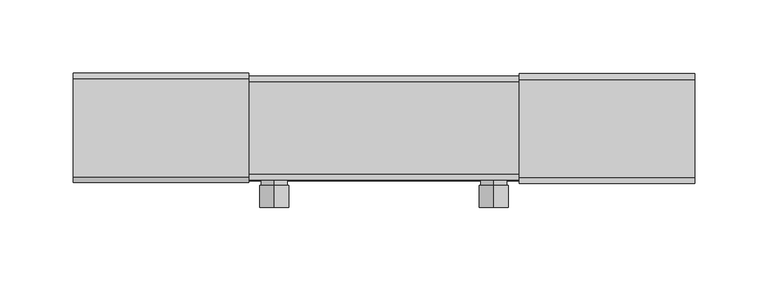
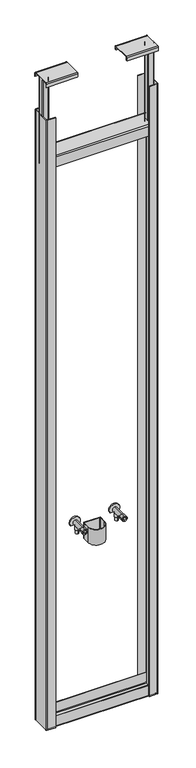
"""IFC4 building model written with IfcOpenShell, lengths in millimetres: flow terminal geometry, NLRS_74_PF_TLB_HU-ASM-WT_Geberit : HU-ASM-WT."""

from ifc_helpers import new_model, si_unit, point, frame, frame_2d, origin, place, context, project, spatial, polyline, circle_curve, trimmed, segment, composite_curve, outline, extrude, source, transform, mapped, element, save
from ifc_brep_helpers import plane_surface, cylinder_surface, revolved_surface, advanced_brep


def flow_terminal_dee08af2(model_context):
    return source(origin(), model_context, "Body", "SolidModel", [
        extrude(outline(composite_curve([segment(trimmed(circle_curve(frame_2d((560.0, 894.5814924)), 20.0), [point((551.7647059, 912.8072964))], [point((551.7647059, 876.3556885))], False, "CARTESIAN"), True, "CONTINUOUS"), segment(trimmed(circle_curve(frame_2d((553.0, 879.0895591)), 3.0), [point((551.7647059, 876.3556885))], [point((550.0, 879.0895591))], False, "CARTESIAN"), True, "CONTINUOUS"), segment(polyline([(550.0, 879.0895591), (550.0, 910.0734258)]), True, "CONTINUOUS"), segment(trimmed(circle_curve(frame_2d((553.0, 910.0734258)), 3.0), [point((550.0, 910.0734258))], [point((551.7647059, 912.8072964))], False, "CARTESIAN"), True, "CONTINUOUS")], self_intersect=False)), frame((0.0, 48.6893191, 0.0), z_axis=(0.0, 1.0, 0.0), x_axis=(0.0, 0.0, 1.0)), (0.0, 0.0, 1.0), 5.0),
        advanced_brep(
        [(894.5814924, 35.6893191, 525.0), (894.5814924, 41.6893191, 525.0), (894.5814924, 29.6893191, 525.0), (894.5814924, 41.6893191, 540.0), (894.5814924, 29.6893191, 540.0), (894.5814924, 43.6893191, 540.0), (894.5814924, 27.6893191, 540.0), (894.5814924, 43.6893191, 560.0), (894.5814924, 27.6893191, 560.0), (894.5814924, 35.6893191, 560.0)],
        [
            (0, 1),
            (1, 2, circle_curve(frame((894.5814924, 35.6893191, 525.0), z_axis=(0.0, 0.0, -1.0), x_axis=(0.0, 1.0, 0.0)), 6.0)),
            (2, 0),
            (2, 1, circle_curve(frame((894.5814924, 35.6893191, 525.0), z_axis=(0.0, 0.0, -1.0), x_axis=(0.0, 1.0, 0.0)), 6.0)),
            (1, 3),
            (3, 4, circle_curve(frame((894.5814924, 35.6893191, 540.0), z_axis=(0.0, 0.0, -1.0), x_axis=(0.0, 1.0, 0.0)), 6.0)),
            (4, 2),
            (4, 3, circle_curve(frame((894.5814924, 35.6893191, 540.0), z_axis=(0.0, 0.0, -1.0), x_axis=(0.0, 1.0, 0.0)), 6.0)),
            (3, 5),
            (5, 6, circle_curve(frame((894.5814924, 35.6893191, 540.0), z_axis=(0.0, 0.0, -1.0), x_axis=(0.0, 1.0, 0.0)), 8.0)),
            (6, 4),
            (6, 5, circle_curve(frame((894.5814924, 35.6893191, 540.0), z_axis=(0.0, 0.0, -1.0), x_axis=(0.0, 1.0, 0.0)), 8.0)),
            (5, 7),
            (7, 8, circle_curve(frame((894.5814924, 35.6893191, 560.0), z_axis=(0.0, 0.0, -1.0), x_axis=(0.0, 1.0, 0.0)), 8.0)),
            (8, 6),
            (8, 7, circle_curve(frame((894.5814924, 35.6893191, 560.0), z_axis=(0.0, 0.0, -1.0), x_axis=(0.0, 1.0, 0.0)), 8.0)),
            (7, 9),
            (9, 8),
        ],
        [
            plane_surface(frame((894.5814924, 35.6893191, 525.0), z_axis=(0.0, 0.0, -1.0), x_axis=(0.0, 1.0, 0.0))),
            cylinder_surface(frame((894.5814924, 35.6893191, 564.6416054), z_axis=(0.0, 0.0, -1.0), x_axis=(0.0, 1.0, 0.0)), 6.0),
            plane_surface(frame((894.5814924, 35.6893191, 540.0), z_axis=(0.0, 0.0, -1.0), x_axis=(0.0, 1.0, 0.0))),
            cylinder_surface(frame((894.5814924, 35.6893191, 564.6416054), z_axis=(0.0, 0.0, -1.0), x_axis=(0.0, 1.0, 0.0)), 8.0),
            plane_surface(frame((894.5814924, 35.6893191, 560.0), z_axis=(0.0, 0.0, 1.0), x_axis=(0.0, 1.0, 0.0))),
        ],
        [
            (0, [[1, 2, 3]]),
            (0, [[-3, 4, -1]]),
            (1, [[-2, 5, 6, 7]]),
            (1, [[-4, -7, 8, -5]]),
            (2, [[-6, 9, 10, 11]]),
            (2, [[-8, -11, 12, -9]]),
            (3, [[-10, 13, 14, 15]]),
            (3, [[-12, -15, 16, -13]]),
            (4, [[-14, 17, 18]]),
            (4, [[-16, -18, -17]]),
        ],
    ),
        advanced_brep(
        [(894.5814924, -1.3106809, 551.0), (894.5814924, -1.3106809, 569.0), (894.5814924, -1.3106809, 570.0), (894.5814924, -1.3106809, 550.0), (894.5814924, -16.3106809, 570.0), (894.5814924, -16.3106809, 550.0), (894.5814924, -16.3106809, 566.0), (894.5814924, -16.3106809, 554.0), (894.5814924, 13.6893191, 566.0), (894.5814924, 13.6893191, 554.0), (894.5814924, 13.6893191, 560.0), (894.5814924, 48.6893191, 560.0), (894.5814924, 48.6893191, 569.0), (894.5814924, 48.6893191, 551.0)],
        [
            (0, 1, circle_curve(frame((894.5814924, -1.3106809, 560.0), z_axis=(0.0, -1.0, 0.0), x_axis=(0.0, 0.0, 1.0)), 9.0)),
            (1, 2),
            (2, 3, circle_curve(frame((894.5814924, -1.3106809, 560.0), z_axis=(0.0, 1.0, 0.0), x_axis=(0.0, 0.0, 1.0)), 10.0)),
            (3, 0),
            (1, 0, circle_curve(frame((894.5814924, -1.3106809, 560.0), z_axis=(0.0, -1.0, 0.0), x_axis=(0.0, 0.0, 1.0)), 9.0)),
            (3, 2, circle_curve(frame((894.5814924, -1.3106809, 560.0), z_axis=(0.0, 1.0, 0.0), x_axis=(0.0, 0.0, 1.0)), 10.0)),
            (2, 4),
            (4, 5, circle_curve(frame((894.5814924, -16.3106809, 560.0), z_axis=(0.0, 1.0, 0.0), x_axis=(0.0, 0.0, 1.0)), 10.0)),
            (5, 3),
            (5, 4, circle_curve(frame((894.5814924, -16.3106809, 560.0), z_axis=(0.0, 1.0, 0.0), x_axis=(0.0, 0.0, 1.0)), 10.0)),
            (4, 6),
            (6, 7, circle_curve(frame((894.5814924, -16.3106809, 560.0), z_axis=(0.0, 1.0, 0.0), x_axis=(0.0, 0.0, 1.0)), 6.0)),
            (7, 5),
            (7, 6, circle_curve(frame((894.5814924, -16.3106809, 560.0), z_axis=(0.0, 1.0, 0.0), x_axis=(0.0, 0.0, 1.0)), 6.0)),
            (6, 8),
            (8, 9, circle_curve(frame((894.5814924, 13.6893191, 560.0), z_axis=(0.0, 1.0, 0.0), x_axis=(0.0, 0.0, 1.0)), 6.0)),
            (9, 7),
            (9, 8, circle_curve(frame((894.5814924, 13.6893191, 560.0), z_axis=(0.0, 1.0, 0.0), x_axis=(0.0, 0.0, 1.0)), 6.0)),
            (8, 10),
            (10, 9),
            (11, 12),
            (12, 13, circle_curve(frame((894.5814924, 48.6893191, 560.0), z_axis=(0.0, 1.0, 0.0), x_axis=(0.0, 0.0, 1.0)), 9.0)),
            (13, 11),
            (13, 12, circle_curve(frame((894.5814924, 48.6893191, 560.0), z_axis=(0.0, 1.0, 0.0), x_axis=(0.0, 0.0, 1.0)), 9.0)),
            (12, 1),
            (0, 13),
        ],
        [
            plane_surface(frame((894.5814924, -1.3106809, 560.0), z_axis=(0.0, 1.0, 0.0), x_axis=(0.0, 0.0, 1.0))),
            cylinder_surface(frame((894.5814924, 1496.110215, 560.0), z_axis=(0.0, 1.0, 0.0), x_axis=(0.0, 0.0, 1.0)), 10.0),
            plane_surface(frame((894.5814924, -16.3106809, 560.0), z_axis=(0.0, -1.0, 0.0), x_axis=(0.0, 0.0, 1.0))),
            revolved_surface(polyline([(894.5814924, 13.68931909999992, 566.0), (894.5814924, -16.31068090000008, 566.0)]), (894.5814924, 1496.110215, 560.0), (0.0, 1.0, 0.0)),
            plane_surface(frame((894.5814924, 13.6893191, 560.0), z_axis=(0.0, -1.0, 0.0), x_axis=(0.0, 0.0, 1.0))),
            plane_surface(frame((894.5814924, 48.6893191, 560.0), z_axis=(0.0, 1.0, 0.0), x_axis=(0.0, 0.0, 1.0))),
            cylinder_surface(frame((894.5814924, 1496.110215, 560.0), z_axis=(0.0, 1.0, 0.0), x_axis=(0.0, 0.0, 1.0)), 9.0),
        ],
        [
            (0, [[1, 2, 3, 4]]),
            (0, [[5, -4, 6, -2]]),
            (1, [[-3, 7, 8, 9]]),
            (1, [[-6, -9, 10, -7]]),
            (2, [[-8, 11, 12, 13]]),
            (2, [[-10, -13, 14, -11]]),
            (3, [[-12, 15, 16, 17]]),
            (3, [[-14, -17, 18, -15]]),
            (4, [[-16, 19, 20]]),
            (4, [[-18, -20, -19]]),
            (5, [[21, 22, 23]]),
            (5, [[-23, 24, -21]]),
            (6, [[-22, 25, -1, 26]]),
            (6, [[-24, -26, -5, -25]]),
        ],
    ),
        extrude(outline(composite_curve([segment(trimmed(circle_curve(frame_2d((560.0, 744.5814924)), 20.0), [point((551.7647059, 762.8072964))], [point((551.7647059, 726.3556885))], False, "CARTESIAN"), True, "CONTINUOUS"), segment(trimmed(circle_curve(frame_2d((553.0, 729.0895591)), 3.0), [point((551.7647059, 726.3556885))], [point((550.0, 729.0895591))], False, "CARTESIAN"), True, "CONTINUOUS"), segment(polyline([(550.0, 729.0895591), (550.0, 760.0734258)]), True, "CONTINUOUS"), segment(trimmed(circle_curve(frame_2d((553.0, 760.0734258)), 3.0), [point((550.0, 760.0734258))], [point((551.7647059, 762.8072964))], False, "CARTESIAN"), True, "CONTINUOUS")], self_intersect=False)), frame((0.0, 48.6893191, 0.0), z_axis=(0.0, 1.0, 0.0), x_axis=(0.0, 0.0, 1.0)), (0.0, 0.0, 1.0), 5.0),
        advanced_brep(
        [(744.5814924, 35.6893191, 525.0), (744.5814924, 41.6893191, 525.0), (744.5814924, 29.6893191, 525.0), (744.5814924, 41.6893191, 540.0), (744.5814924, 29.6893191, 540.0), (744.5814924, 43.6893191, 540.0), (744.5814924, 27.6893191, 540.0), (744.5814924, 43.6893191, 560.0), (744.5814924, 27.6893191, 560.0), (744.5814924, 35.6893191, 560.0)],
        [
            (0, 1),
            (1, 2, circle_curve(frame((744.5814924, 35.6893191, 525.0), z_axis=(0.0, 0.0, -1.0), x_axis=(0.0, 1.0, 0.0)), 6.0)),
            (2, 0),
            (2, 1, circle_curve(frame((744.5814924, 35.6893191, 525.0), z_axis=(0.0, 0.0, -1.0), x_axis=(0.0, 1.0, 0.0)), 6.0)),
            (1, 3),
            (3, 4, circle_curve(frame((744.5814924, 35.6893191, 540.0), z_axis=(0.0, 0.0, -1.0), x_axis=(0.0, 1.0, 0.0)), 6.0)),
            (4, 2),
            (4, 3, circle_curve(frame((744.5814924, 35.6893191, 540.0), z_axis=(0.0, 0.0, -1.0), x_axis=(0.0, 1.0, 0.0)), 6.0)),
            (3, 5),
            (5, 6, circle_curve(frame((744.5814924, 35.6893191, 540.0), z_axis=(0.0, 0.0, -1.0), x_axis=(0.0, 1.0, 0.0)), 8.0)),
            (6, 4),
            (6, 5, circle_curve(frame((744.5814924, 35.6893191, 540.0), z_axis=(0.0, 0.0, -1.0), x_axis=(0.0, 1.0, 0.0)), 8.0)),
            (5, 7),
            (7, 8, circle_curve(frame((744.5814924, 35.6893191, 560.0), z_axis=(0.0, 0.0, -1.0), x_axis=(0.0, 1.0, 0.0)), 8.0)),
            (8, 6),
            (8, 7, circle_curve(frame((744.5814924, 35.6893191, 560.0), z_axis=(0.0, 0.0, -1.0), x_axis=(0.0, 1.0, 0.0)), 8.0)),
            (7, 9),
            (9, 8),
        ],
        [
            plane_surface(frame((744.5814924, 35.6893191, 525.0), z_axis=(0.0, 0.0, -1.0), x_axis=(0.0, 1.0, 0.0))),
            cylinder_surface(frame((744.5814924, 35.6893191, 564.6416054), z_axis=(0.0, 0.0, -1.0), x_axis=(0.0, 1.0, 0.0)), 6.0),
            plane_surface(frame((744.5814924, 35.6893191, 540.0), z_axis=(0.0, 0.0, -1.0), x_axis=(0.0, 1.0, 0.0))),
            cylinder_surface(frame((744.5814924, 35.6893191, 564.6416054), z_axis=(0.0, 0.0, -1.0), x_axis=(0.0, 1.0, 0.0)), 8.0),
            plane_surface(frame((744.5814924, 35.6893191, 560.0), z_axis=(0.0, 0.0, 1.0), x_axis=(0.0, 1.0, 0.0))),
        ],
        [
            (0, [[1, 2, 3]]),
            (0, [[-3, 4, -1]]),
            (1, [[-2, 5, 6, 7]]),
            (1, [[-4, -7, 8, -5]]),
            (2, [[-6, 9, 10, 11]]),
            (2, [[-8, -11, 12, -9]]),
            (3, [[-10, 13, 14, 15]]),
            (3, [[-12, -15, 16, -13]]),
            (4, [[-14, 17, 18]]),
            (4, [[-16, -18, -17]]),
        ],
    ),
        advanced_brep(
        [(744.5814924, -1.3106809, 551.0), (744.5814924, -1.3106809, 569.0), (744.5814924, -1.3106809, 570.0), (744.5814924, -1.3106809, 550.0), (744.5814924, -16.3106809, 570.0), (744.5814924, -16.3106809, 550.0), (744.5814924, -16.3106809, 566.0), (744.5814924, -16.3106809, 554.0), (744.5814924, 13.6893191, 566.0), (744.5814924, 13.6893191, 554.0), (744.5814924, 13.6893191, 560.0), (744.5814924, 48.6893191, 560.0), (744.5814924, 48.6893191, 569.0), (744.5814924, 48.6893191, 551.0)],
        [
            (0, 1, circle_curve(frame((744.5814924, -1.3106809, 560.0), z_axis=(0.0, -1.0, 0.0), x_axis=(0.0, 0.0, 1.0)), 9.0)),
            (1, 2),
            (2, 3, circle_curve(frame((744.5814924, -1.3106809, 560.0), z_axis=(0.0, 1.0, 0.0), x_axis=(0.0, 0.0, 1.0)), 10.0)),
            (3, 0),
            (1, 0, circle_curve(frame((744.5814924, -1.3106809, 560.0), z_axis=(0.0, -1.0, 0.0), x_axis=(0.0, 0.0, 1.0)), 9.0)),
            (3, 2, circle_curve(frame((744.5814924, -1.3106809, 560.0), z_axis=(0.0, 1.0, 0.0), x_axis=(0.0, 0.0, 1.0)), 10.0)),
            (2, 4),
            (4, 5, circle_curve(frame((744.5814924, -16.3106809, 560.0), z_axis=(0.0, 1.0, 0.0), x_axis=(0.0, 0.0, 1.0)), 10.0)),
            (5, 3),
            (5, 4, circle_curve(frame((744.5814924, -16.3106809, 560.0), z_axis=(0.0, 1.0, 0.0), x_axis=(0.0, 0.0, 1.0)), 10.0)),
            (4, 6),
            (6, 7, circle_curve(frame((744.5814924, -16.3106809, 560.0), z_axis=(0.0, 1.0, 0.0), x_axis=(0.0, 0.0, 1.0)), 6.0)),
            (7, 5),
            (7, 6, circle_curve(frame((744.5814924, -16.3106809, 560.0), z_axis=(0.0, 1.0, 0.0), x_axis=(0.0, 0.0, 1.0)), 6.0)),
            (6, 8),
            (8, 9, circle_curve(frame((744.5814924, 13.6893191, 560.0), z_axis=(0.0, 1.0, 0.0), x_axis=(0.0, 0.0, 1.0)), 6.0)),
            (9, 7),
            (9, 8, circle_curve(frame((744.5814924, 13.6893191, 560.0), z_axis=(0.0, 1.0, 0.0), x_axis=(0.0, 0.0, 1.0)), 6.0)),
            (8, 10),
            (10, 9),
            (11, 12),
            (12, 13, circle_curve(frame((744.5814924, 48.6893191, 560.0), z_axis=(0.0, 1.0, 0.0), x_axis=(0.0, 0.0, 1.0)), 9.0)),
            (13, 11),
            (13, 12, circle_curve(frame((744.5814924, 48.6893191, 560.0), z_axis=(0.0, 1.0, 0.0), x_axis=(0.0, 0.0, 1.0)), 9.0)),
            (12, 1),
            (0, 13),
        ],
        [
            plane_surface(frame((744.5814924, -1.3106809, 560.0), z_axis=(0.0, 1.0, 0.0), x_axis=(0.0, 0.0, 1.0))),
            cylinder_surface(frame((744.5814924, 1496.110215, 560.0), z_axis=(0.0, 1.0, 0.0), x_axis=(0.0, 0.0, 1.0)), 10.0),
            plane_surface(frame((744.5814924, -16.3106809, 560.0), z_axis=(0.0, -1.0, 0.0), x_axis=(0.0, 0.0, 1.0))),
            revolved_surface(polyline([(744.5814924, 13.68931909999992, 566.0), (744.5814924, -16.31068090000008, 566.0)]), (744.5814924, 1496.110215, 560.0), (0.0, 1.0, 0.0)),
            plane_surface(frame((744.5814924, 13.6893191, 560.0), z_axis=(0.0, -1.0, 0.0), x_axis=(0.0, 0.0, 1.0))),
            plane_surface(frame((744.5814924, 48.6893191, 560.0), z_axis=(0.0, 1.0, 0.0), x_axis=(0.0, 0.0, 1.0))),
            cylinder_surface(frame((744.5814924, 1496.110215, 560.0), z_axis=(0.0, 1.0, 0.0), x_axis=(0.0, 0.0, 1.0)), 9.0),
        ],
        [
            (0, [[1, 2, 3, 4]]),
            (0, [[5, -4, 6, -2]]),
            (1, [[-3, 7, 8, 9]]),
            (1, [[-6, -9, 10, -7]]),
            (2, [[-8, 11, 12, 13]]),
            (2, [[-10, -13, 14, -11]]),
            (3, [[-12, 15, 16, 17]]),
            (3, [[-14, -17, 18, -15]]),
            (4, [[-16, 19, 20]]),
            (4, [[-18, -20, -19]]),
            (5, [[21, 22, 23]]),
            (5, [[-23, 24, -21]]),
            (6, [[-22, 25, -1, 26]]),
            (6, [[-24, -26, -5, -25]]),
        ],
    ),
        extrude(outline(composite_curve([segment(polyline([(997.0814924, 0.0), (997.0814924, 2.0), (1028.0814924, 2.0)]), True, "CONTINUOUS"), segment(trimmed(circle_curve(frame_2d((1028.0814924, 4.0)), 2.0), [point((1028.0814924, 2.0))], [point((1030.0814924, 4.0))], True, "CARTESIAN"), True, "CONTINUOUS"), segment(polyline([(1030.0814924, 4.0), (1030.0814924, 71.0)]), True, "CONTINUOUS"), segment(trimmed(circle_curve(frame_2d((1028.0814924, 71.0)), 2.0), [point((1030.0814924, 71.0))], [point((1028.0814924, 73.0))], True, "CARTESIAN"), True, "CONTINUOUS"), segment(polyline([(1028.0814924, 73.0), (997.0814924, 73.0), (997.0814924, 75.0), (1028.0814924, 75.0)]), True, "CONTINUOUS"), segment(trimmed(circle_curve(frame_2d((1028.0814924, 71.0)), 4.0), [point((1028.0814924, 75.0))], [point((1032.0814924, 71.0))], False, "CARTESIAN"), True, "CONTINUOUS"), segment(polyline([(1032.0814924, 71.0), (1032.0814924, 4.0)]), True, "CONTINUOUS"), segment(trimmed(circle_curve(frame_2d((1028.0814924, 4.0)), 4.0), [point((1032.0814924, 4.0))], [point((1028.0814924, 0.0))], False, "CARTESIAN"), True, "CONTINUOUS"), segment(polyline([(1028.0814924, 0.0), (997.0814924, 0.0)]), True, "CONTINUOUS")], self_intersect=False)), frame((0.0, 0.0, -200.0), z_axis=(0.0, 0.0, 1.0), x_axis=(1.0, 0.0, 0.0)), (0.0, 0.0, 1.0), 2450.0),
        extrude(outline(composite_curve([segment(polyline([(642.0814924, 0.5), (611.0814924, 0.5)]), True, "CONTINUOUS"), segment(trimmed(circle_curve(frame_2d((611.0814924, 4.5)), 4.0), [point((611.0814924, 0.5))], [point((607.0814924, 4.5))], False, "CARTESIAN"), True, "CONTINUOUS"), segment(polyline([(607.0814924, 4.5), (607.0814924, 71.5)]), True, "CONTINUOUS"), segment(trimmed(circle_curve(frame_2d((611.0814924, 71.5)), 4.0), [point((607.0814924, 71.5))], [point((611.0814924, 75.5))], False, "CARTESIAN"), True, "CONTINUOUS"), segment(polyline([(611.0814924, 75.5), (642.0814924, 75.5), (642.0814924, 73.5), (611.0814924, 73.5)]), True, "CONTINUOUS"), segment(trimmed(circle_curve(frame_2d((611.0814924, 71.5)), 2.0), [point((611.0814924, 73.5))], [point((609.0814924, 71.5))], True, "CARTESIAN"), True, "CONTINUOUS"), segment(polyline([(609.0814924, 71.5), (609.0814924, 4.5)]), True, "CONTINUOUS"), segment(trimmed(circle_curve(frame_2d((611.0814924, 4.5)), 2.0), [point((609.0814924, 4.5))], [point((611.0814924, 2.5))], True, "CARTESIAN"), True, "CONTINUOUS"), segment(polyline([(611.0814924, 2.5), (642.0814924, 2.5), (642.0814924, 0.5)]), True, "CONTINUOUS")], self_intersect=False)), frame((0.0, 0.0, -200.0), z_axis=(0.0, 0.0, 1.0), x_axis=(1.0, 0.0, 0.0)), (0.0, 0.0, 1.0), 2450.0),
        extrude(outline(composite_curve([segment(polyline([(2.0, -156.0), (4.0, -156.0), (4.0, -196.0)]), True, "CONTINUOUS"), segment(trimmed(circle_curve(frame_2d((6.0, -196.0)), 2.0), [point((4.0, -196.0))], [point((6.0, -198.0))], True, "CARTESIAN"), True, "CONTINUOUS"), segment(polyline([(6.0, -198.0), (69.0, -198.0)]), True, "CONTINUOUS"), segment(trimmed(circle_curve(frame_2d((69.0, -196.0)), 2.0), [point((69.0, -198.0))], [point((71.0, -196.0))], True, "CARTESIAN"), True, "CONTINUOUS"), segment(polyline([(71.0, -196.0), (71.0, -156.0), (73.0, -156.0), (73.0, -196.0)]), True, "CONTINUOUS"), segment(trimmed(circle_curve(frame_2d((69.0, -196.0)), 4.0), [point((73.0, -196.0))], [point((69.0, -200.0))], False, "CARTESIAN"), True, "CONTINUOUS"), segment(polyline([(69.0, -200.0), (6.0, -200.0)]), True, "CONTINUOUS"), segment(trimmed(circle_curve(frame_2d((6.0, -196.0)), 4.0), [point((6.0, -200.0))], [point((2.0, -196.0))], False, "CARTESIAN"), True, "CONTINUOUS"), segment(polyline([(2.0, -196.0), (2.0, -156.0)]), True, "CONTINUOUS")], self_intersect=False)), frame((612.0814924, 0.0, 0.0), z_axis=(1.0, 0.0, 0.0), x_axis=(0.0, 1.0, 0.0)), (0.0, 0.0, 1.0), 415.0),
        extrude(outline(composite_curve([segment(polyline([(2.5, 2050.0), (2.5, 2090.0)]), True, "CONTINUOUS"), segment(trimmed(circle_curve(frame_2d((6.5, 2090.0)), 4.0), [point((2.5, 2090.0))], [point((6.5, 2094.0))], False, "CARTESIAN"), True, "CONTINUOUS"), segment(polyline([(6.5, 2094.0), (69.5, 2094.0)]), True, "CONTINUOUS"), segment(trimmed(circle_curve(frame_2d((69.5, 2090.0)), 4.0), [point((69.5, 2094.0))], [point((73.5, 2090.0))], False, "CARTESIAN"), True, "CONTINUOUS"), segment(polyline([(73.5, 2090.0), (73.5, 2050.0), (71.5, 2050.0), (71.5, 2090.0)]), True, "CONTINUOUS"), segment(trimmed(circle_curve(frame_2d((69.5, 2090.0)), 2.0), [point((71.5, 2090.0))], [point((69.5, 2092.0))], True, "CARTESIAN"), True, "CONTINUOUS"), segment(polyline([(69.5, 2092.0), (6.5, 2092.0)]), True, "CONTINUOUS"), segment(trimmed(circle_curve(frame_2d((6.5, 2090.0)), 2.0), [point((6.5, 2092.0))], [point((4.5, 2090.0))], True, "CARTESIAN"), True, "CONTINUOUS"), segment(polyline([(4.5, 2090.0), (4.5, 2050.0), (2.5, 2050.0)]), True, "CONTINUOUS")], self_intersect=False)), frame((612.0814924, 0.0, 0.0), z_axis=(1.0, 0.0, 0.0), x_axis=(0.0, 1.0, 0.0)), (0.0, 0.0, 1.0), 415.0),
        advanced_brep(
        [(912.0814924, 0.0, 2396.0), (912.0814924, 4.0, 2400.0), (912.0814924, 71.0, 2400.0), (912.0814924, 75.0, 2396.0), (912.0814924, 75.0, 2387.0), (912.0814924, 73.0, 2387.0), (912.0814924, 73.0, 2396.0), (912.0814924, 71.0, 2398.0), (912.0814924, 4.0, 2398.0), (912.0814924, 2.0, 2396.0), (912.0814924, 2.0, 2387.0), (912.0814924, 0.0, 2387.0), (1032.0814924, 0.0, 2383.0), (1032.0814924, 2.0, 2383.0), (1032.0814924, 2.0, 2396.0), (1032.0814924, 4.0, 2398.0), (1032.0814924, 29.0, 2398.0), (1032.0814924, 29.0, 2050.0), (1032.0814924, 46.0, 2050.0), (1032.0814924, 46.0, 2398.0), (1032.0814924, 71.0, 2398.0), (1032.0814924, 73.0, 2396.0), (1032.0814924, 73.0, 2383.0), (1032.0814924, 75.0, 2383.0), (1032.0814924, 75.0, 2396.0), (1032.0814924, 71.0, 2400.0), (1032.0814924, 4.0, 2400.0), (1032.0814924, 0.0, 2396.0), (916.0814924, 0.0, 2383.0), (916.0814924, 2.0, 2383.0), (1028.0814924, 50.0, 2398.0), (1011.0814924, 50.0, 2398.0), (1007.0814924, 46.0, 2398.0), (1007.0814924, 29.0, 2398.0), (1011.0814924, 25.0, 2398.0), (1028.0814924, 25.0, 2398.0), (1011.0814924, 27.0, 2398.0), (1009.0814924, 29.0, 2398.0), (1009.0814924, 46.0, 2398.0), (1011.0814924, 48.0, 2398.0), (1028.0814924, 48.0, 2398.0), (1030.0814924, 46.0, 2398.0), (1030.0814924, 29.0, 2398.0), (1028.0814924, 27.0, 2398.0), (916.0814924, 73.0, 2383.0), (916.0814924, 75.0, 2383.0), (1011.0814924, 25.0, 2050.0), (1007.0814924, 29.0, 2050.0), (1007.0814924, 46.0, 2050.0), (1011.0814924, 50.0, 2050.0), (1028.0814924, 50.0, 2050.0), (1028.0814924, 25.0, 2050.0), (1011.0814924, 27.0, 2050.0), (1028.0814924, 27.0, 2050.0), (1030.0814924, 29.0, 2050.0), (1030.0814924, 46.0, 2050.0), (1028.0814924, 48.0, 2050.0), (1011.0814924, 48.0, 2050.0), (1009.0814924, 46.0, 2050.0), (1009.0814924, 29.0, 2050.0)],
        [
            (0, 1, circle_curve(frame((912.0814924, 4.0, 2396.0), z_axis=(-1.0, 0.0, 0.0), x_axis=(0.0, 0.0, 1.0)), 4.0)),
            (1, 2),
            (2, 3, circle_curve(frame((912.0814924, 71.0, 2396.0), z_axis=(-1.0, 0.0, 0.0), x_axis=(0.0, 0.0, 1.0)), 4.0)),
            (3, 4),
            (4, 5),
            (5, 6),
            (6, 7, circle_curve(frame((912.0814924, 71.0, 2396.0), z_axis=(1.0, 0.0, 0.0), x_axis=(0.0, 0.0, 1.0)), 2.0)),
            (7, 8),
            (8, 9, circle_curve(frame((912.0814924, 4.0, 2396.0), z_axis=(1.0, 0.0, 0.0), x_axis=(0.0, 0.0, 1.0)), 2.0)),
            (9, 10),
            (10, 11),
            (11, 0),
            (12, 13),
            (13, 14),
            (14, 15, circle_curve(frame((1032.0814924, 4.0, 2396.0), z_axis=(-1.0, 0.0, 0.0), x_axis=(0.0, 0.0, 1.0)), 2.0)),
            (15, 16),
            (16, 17),
            (17, 18),
            (18, 19),
            (19, 20),
            (20, 21, circle_curve(frame((1032.0814924, 71.0, 2396.0), z_axis=(-1.0, 0.0, 0.0), x_axis=(0.0, 0.0, 1.0)), 2.0)),
            (21, 22),
            (22, 23),
            (23, 24),
            (24, 25, circle_curve(frame((1032.0814924, 71.0, 2396.0), z_axis=(1.0, 0.0, 0.0), x_axis=(0.0, 0.0, 1.0)), 4.0)),
            (25, 26),
            (26, 27, circle_curve(frame((1032.0814924, 4.0, 2396.0), z_axis=(1.0, 0.0, 0.0), x_axis=(0.0, 0.0, 1.0)), 4.0)),
            (27, 12),
            (12, 28),
            (28, 29),
            (29, 13),
            (29, 10, circle_curve(frame((916.0814924, 2.0, 2387.0), z_axis=(0.0, 1.0, 0.0), x_axis=(0.0, 0.0, 1.0)), 4.0)),
            (9, 14),
            (8, 15),
            (7, 20),
            (19, 30, circle_curve(frame((1028.0814924, 46.0, 2398.0), z_axis=(0.0, 0.0, 1.0), x_axis=(-1.0, 0.0, 0.0)), 4.0)),
            (30, 31),
            (31, 32, circle_curve(frame((1011.0814924, 46.0, 2398.0), z_axis=(0.0, 0.0, 1.0), x_axis=(-1.0, 0.0, 0.0)), 4.0)),
            (32, 33),
            (33, 34, circle_curve(frame((1011.0814924, 29.0, 2398.0), z_axis=(0.0, 0.0, 1.0), x_axis=(-1.0, 0.0, 0.0)), 4.0)),
            (34, 35),
            (35, 16, circle_curve(frame((1028.0814924, 29.0, 2398.0), z_axis=(0.0, 0.0, 1.0), x_axis=(-1.0, 0.0, 0.0)), 4.0)),
            (36, 37, circle_curve(frame((1011.0814924, 29.0, 2398.0), z_axis=(0.0, 0.0, -1.0), x_axis=(-1.0, 0.0, 0.0)), 2.0)),
            (37, 38),
            (38, 39, circle_curve(frame((1011.0814924, 46.0, 2398.0), z_axis=(0.0, 0.0, -1.0), x_axis=(-1.0, 0.0, 0.0)), 2.0)),
            (39, 40),
            (40, 41, circle_curve(frame((1028.0814924, 46.0, 2398.0), z_axis=(0.0, 0.0, -1.0), x_axis=(-1.0, 0.0, 0.0)), 2.0)),
            (41, 42),
            (42, 43, circle_curve(frame((1028.0814924, 29.0, 2398.0), z_axis=(0.0, 0.0, -1.0), x_axis=(-1.0, 0.0, 0.0)), 2.0)),
            (43, 36),
            (6, 21),
            (5, 44, circle_curve(frame((916.0814924, 73.0, 2387.0), z_axis=(0.0, -1.0, 0.0), x_axis=(0.0, 0.0, 1.0)), 4.0)),
            (44, 22),
            (44, 45),
            (45, 23),
            (45, 4, circle_curve(frame((916.0814924, 75.0, 2387.0), z_axis=(0.0, 1.0, 0.0), x_axis=(0.0, 0.0, 1.0)), 4.0)),
            (3, 24),
            (2, 25),
            (1, 26),
            (0, 27),
            (11, 28, circle_curve(frame((916.0814924, 0.0, 2387.0), z_axis=(0.0, -1.0, 0.0), x_axis=(0.0, 0.0, 1.0)), 4.0)),
            (46, 47, circle_curve(frame((1011.0814924, 29.0, 2050.0), z_axis=(0.0, 0.0, -1.0), x_axis=(-1.0, 0.0, 0.0)), 4.0)),
            (47, 48),
            (48, 49, circle_curve(frame((1011.0814924, 46.0, 2050.0), z_axis=(0.0, 0.0, -1.0), x_axis=(-1.0, 0.0, 0.0)), 4.0)),
            (49, 50),
            (50, 18, circle_curve(frame((1028.0814924, 46.0, 2050.0), z_axis=(0.0, 0.0, -1.0), x_axis=(-1.0, 0.0, 0.0)), 4.0)),
            (17, 51, circle_curve(frame((1028.0814924, 29.0, 2050.0), z_axis=(0.0, 0.0, -1.0), x_axis=(-1.0, 0.0, 0.0)), 4.0)),
            (51, 46),
            (52, 53),
            (53, 54, circle_curve(frame((1028.0814924, 29.0, 2050.0), z_axis=(0.0, 0.0, 1.0), x_axis=(-1.0, 0.0, 0.0)), 2.0)),
            (54, 55),
            (55, 56, circle_curve(frame((1028.0814924, 46.0, 2050.0), z_axis=(0.0, 0.0, 1.0), x_axis=(-1.0, 0.0, 0.0)), 2.0)),
            (56, 57),
            (57, 58, circle_curve(frame((1011.0814924, 46.0, 2050.0), z_axis=(0.0, 0.0, 1.0), x_axis=(-1.0, 0.0, 0.0)), 2.0)),
            (58, 59),
            (59, 52, circle_curve(frame((1011.0814924, 29.0, 2050.0), z_axis=(0.0, 0.0, 1.0), x_axis=(-1.0, 0.0, 0.0)), 2.0)),
            (51, 35),
            (34, 46),
            (50, 30),
            (49, 31),
            (48, 32),
            (47, 33),
            (59, 37),
            (36, 52),
            (58, 38),
            (57, 39),
            (56, 40),
            (55, 41),
            (54, 42),
            (53, 43),
        ],
        [
            plane_surface(frame((912.0814924, 2.0, 2383.0), z_axis=(-1.0, 0.0, 0.0), x_axis=(0.0, -1.0, 0.0))),
            plane_surface(frame((1032.0814924, 2.0, 2383.0), z_axis=(1.0, 0.0, 0.0), x_axis=(0.0, 1.0, 0.0))),
            plane_surface(frame((1032.0814924, 0.0, 2383.0), z_axis=(0.0, 0.0, -1.0), x_axis=(-1.0, 0.0, 0.0))),
            plane_surface(frame((1032.0814924, 2.0, 2383.0), z_axis=(0.0, 1.0, 0.0), x_axis=(-1.0, 0.0, 0.0))),
            revolved_surface(polyline([(912.0814924, 4.0, 2398.0), (1032.0814924, 4.0, 2398.0)]), (912.0814924, 4.0, 2396.0), (-1.0, 0.0, 0.0)),
            plane_surface(frame((1032.0814924, 4.0, 2398.0), z_axis=(0.0, 0.0, -1.0), x_axis=(-1.0, 0.0, 0.0))),
            revolved_surface(polyline([(912.0814924, 71.0, 2398.0), (1032.0814924, 71.0, 2398.0)]), (912.0814924, 71.0, 2396.0), (-1.0, 0.0, 0.0)),
            plane_surface(frame((1032.0814924, 73.0, 2396.0), z_axis=(0.0, -1.0, 0.0), x_axis=(-1.0, 0.0, 0.0))),
            plane_surface(frame((1032.0814924, 73.0, 2383.0), z_axis=(0.0, 0.0, -1.0), x_axis=(-1.0, 0.0, 0.0))),
            plane_surface(frame((1032.0814924, 75.0, 2383.0), z_axis=(0.0, 1.0, 0.0), x_axis=(-1.0, 0.0, 0.0))),
            cylinder_surface(frame((912.0814924, 71.0, 2396.0), z_axis=(1.0, 0.0, 0.0), x_axis=(0.0, 0.0, 1.0)), 4.0),
            plane_surface(frame((1032.0814924, 71.0, 2400.0), z_axis=(0.0, 0.0, 1.0), x_axis=(-1.0, 0.0, 0.0))),
            cylinder_surface(frame((912.0814924, 4.0, 2396.0), z_axis=(1.0, 0.0, 0.0), x_axis=(0.0, 0.0, 1.0)), 4.0),
            plane_surface(frame((1032.0814924, 0.0, 2396.0), z_axis=(0.0, -1.0, 0.0), x_axis=(-1.0, 0.0, 0.0))),
            plane_surface(frame((1032.0814924, 25.0, 2050.0), z_axis=(0.0, 0.0, -1.0), x_axis=(-1.0, 0.0, 0.0))),
            plane_surface(frame((1011.0814924, 25.0, 2400.0), z_axis=(0.0, -1.0, 0.0), x_axis=(0.0, 0.0, -1.0))),
            cylinder_surface(frame((1028.0814924, 29.0, 2050.0), z_axis=(0.0, 0.0, 1.0), x_axis=(-1.0, 0.0, 0.0)), 4.0),
            cylinder_surface(frame((1028.0814924, 46.0, 2050.0), z_axis=(0.0, 0.0, 1.0), x_axis=(-1.0, 0.0, 0.0)), 4.0),
            plane_surface(frame((1028.0814924, 50.0, 2400.0), z_axis=(0.0, 1.0, 0.0), x_axis=(0.0, 0.0, -1.0))),
            cylinder_surface(frame((1011.0814924, 46.0, 2050.0), z_axis=(0.0, 0.0, 1.0), x_axis=(-1.0, 0.0, 0.0)), 4.0),
            plane_surface(frame((1007.0814924, 46.0, 2400.0), z_axis=(-1.0, 0.0, 0.0), x_axis=(0.0, 0.0, -1.0))),
            cylinder_surface(frame((1011.0814924, 29.0, 2050.0), z_axis=(0.0, 0.0, 1.0), x_axis=(-1.0, 0.0, 0.0)), 4.0),
            revolved_surface(polyline([(1009.0814924, 29.0, 2050.0), (1009.0814924, 29.0, 2398.0)]), (1011.0814924, 29.0, 2050.0), (0.0, 0.0, -1.0)),
            plane_surface(frame((1009.0814924, 29.0, 2400.0), z_axis=(1.0, 0.0, 0.0), x_axis=(0.0, 0.0, -1.0))),
            revolved_surface(polyline([(1009.0814924, 46.0, 2050.0), (1009.0814924, 46.0, 2398.0)]), (1011.0814924, 46.0, 2050.0), (0.0, 0.0, -1.0)),
            plane_surface(frame((1011.0814924, 48.0, 2400.0), z_axis=(0.0, -1.0, 0.0), x_axis=(0.0, 0.0, -1.0))),
            revolved_surface(polyline([(1026.0814924, 46.0, 2050.0), (1026.0814924, 46.0, 2398.0)]), (1028.0814924, 46.0, 2050.0), (0.0, 0.0, -1.0)),
            plane_surface(frame((1030.0814924, 46.0, 2400.0), z_axis=(-1.0, 0.0, 0.0), x_axis=(0.0, 0.0, -1.0))),
            revolved_surface(polyline([(1026.0814924, 29.0, 2050.0), (1026.0814924, 29.0, 2398.0)]), (1028.0814924, 29.0, 2050.0), (0.0, 0.0, -1.0)),
            plane_surface(frame((1028.0814924, 27.0, 2400.0), z_axis=(0.0, 1.0, 0.0), x_axis=(0.0, 0.0, -1.0))),
            cylinder_surface(frame((916.0814924, 120.0, 2387.0), z_axis=(0.0, 1.0, 0.0), x_axis=(0.0, 0.0, 1.0)), 4.0),
        ],
        [
            (0, [[1, 2, 3, 4, 5, 6, 7, 8, 9, 10, 11, 12]]),
            (1, [[13, 14, 15, 16, 17, 18, 19, 20, 21, 22, 23, 24, 25, 26, 27, 28]]),
            (2, [[-13, 29, 30, 31]]),
            (3, [[-14, -31, 32, -10, 33]]),
            (4, [[-9, 34, -15, -33]]),
            (5, [[-8, 35, -20, 36, 37, 38, 39, 40, 41, 42, -16, -34]]),
            (5, [[43, 44, 45, 46, 47, 48, 49, 50]]),
            (6, [[-7, 51, -21, -35]]),
            (7, [[-22, -51, -6, 52, 53]]),
            (8, [[-23, -53, 54, 55]]),
            (9, [[-24, -55, 56, -4, 57]]),
            (10, [[-3, 58, -25, -57]]),
            (11, [[-2, 59, -26, -58]]),
            (12, [[-1, 60, -27, -59]]),
            (13, [[-28, -60, -12, 61, -29]]),
            (14, [[62, 63, 64, 65, 66, -18, 67, 68], [69, 70, 71, 72, 73, 74, 75, 76]]),
            (15, [[-68, 77, -41, 78]]),
            (16, [[-67, -17, -42, -77]]),
            (17, [[-66, 79, -36, -19]]),
            (18, [[-65, 80, -37, -79]]),
            (19, [[-64, 81, -38, -80]]),
            (20, [[-63, 82, -39, -81]]),
            (21, [[-62, -78, -40, -82]]),
            (22, [[-76, 83, -43, 84]]),
            (23, [[-75, 85, -44, -83]]),
            (24, [[-74, 86, -45, -85]]),
            (25, [[-73, 87, -46, -86]]),
            (26, [[-72, 88, -47, -87]]),
            (27, [[-71, 89, -48, -88]]),
            (28, [[-70, 90, -49, -89]]),
            (29, [[-69, -84, -50, -90]]),
            (30, [[-5, -56, -54, -52]]),
            (30, [[-11, -32, -30, -61]]),
        ],
    ),
        advanced_brep(
        [(727.0814924, 0.5, 2396.0), (727.0814924, 0.5, 2387.0), (727.0814924, 2.5, 2387.0), (727.0814924, 2.5, 2396.0), (727.0814924, 4.5, 2398.0), (727.0814924, 71.5, 2398.0), (727.0814924, 73.5, 2396.0), (727.0814924, 73.5, 2387.0), (727.0814924, 75.5, 2387.0), (727.0814924, 75.5, 2396.0), (727.0814924, 71.5, 2400.0), (727.0814924, 4.5, 2400.0), (607.0814924, 0.5, 2383.0), (607.0814924, 0.5, 2396.0), (607.0814924, 4.5, 2400.0), (607.0814924, 71.5, 2400.0), (607.0814924, 75.5, 2396.0), (607.0814924, 75.5, 2383.0), (607.0814924, 73.5, 2383.0), (607.0814924, 73.5, 2396.0), (607.0814924, 71.5, 2398.0), (607.0814924, 46.5, 2398.0), (607.0814924, 46.5, 2050.0), (607.0814924, 29.5, 2050.0), (607.0814924, 29.5, 2398.0), (607.0814924, 4.5, 2398.0), (607.0814924, 2.5, 2396.0), (607.0814924, 2.5, 2383.0), (723.0814924, 2.5, 2383.0), (723.0814924, 0.5, 2383.0), (611.0814924, 25.5, 2398.0), (628.0814924, 25.5, 2398.0), (632.0814924, 29.5, 2398.0), (632.0814924, 46.5, 2398.0), (628.0814924, 50.5, 2398.0), (611.0814924, 50.5, 2398.0), (628.0814924, 27.5, 2398.0), (611.0814924, 27.5, 2398.0), (609.0814924, 29.5, 2398.0), (609.0814924, 46.5, 2398.0), (611.0814924, 48.5, 2398.0), (628.0814924, 48.5, 2398.0), (630.0814924, 46.5, 2398.0), (630.0814924, 29.5, 2398.0), (723.0814924, 73.5, 2383.0), (723.0814924, 75.5, 2383.0), (628.0814924, 25.5, 2050.0), (611.0814924, 25.5, 2050.0), (611.0814924, 50.5, 2050.0), (628.0814924, 50.5, 2050.0), (632.0814924, 46.5, 2050.0), (632.0814924, 29.5, 2050.0), (628.0814924, 27.5, 2050.0), (630.0814924, 29.5, 2050.0), (630.0814924, 46.5, 2050.0), (628.0814924, 48.5, 2050.0), (611.0814924, 48.5, 2050.0), (609.0814924, 46.5, 2050.0), (609.0814924, 29.5, 2050.0), (611.0814924, 27.5, 2050.0)],
        [
            (0, 1),
            (1, 2),
            (2, 3),
            (3, 4, circle_curve(frame((727.0814924, 4.5, 2396.0), z_axis=(-1.0, 0.0, 0.0), x_axis=(0.0, 0.0, 1.0)), 2.0)),
            (4, 5),
            (5, 6, circle_curve(frame((727.0814924, 71.5, 2396.0), z_axis=(-1.0, 0.0, 0.0), x_axis=(0.0, 0.0, 1.0)), 2.0)),
            (6, 7),
            (7, 8),
            (8, 9),
            (9, 10, circle_curve(frame((727.0814924, 71.5, 2396.0), z_axis=(1.0, 0.0, 0.0), x_axis=(0.0, 0.0, 1.0)), 4.0)),
            (10, 11),
            (11, 0, circle_curve(frame((727.0814924, 4.5, 2396.0), z_axis=(1.0, 0.0, 0.0), x_axis=(0.0, 0.0, 1.0)), 4.0)),
            (12, 13),
            (13, 14, circle_curve(frame((607.0814924, 4.5, 2396.0), z_axis=(-1.0, 0.0, 0.0), x_axis=(0.0, 0.0, 1.0)), 4.0)),
            (14, 15),
            (15, 16, circle_curve(frame((607.0814924, 71.5, 2396.0), z_axis=(-1.0, 0.0, 0.0), x_axis=(0.0, 0.0, 1.0)), 4.0)),
            (16, 17),
            (17, 18),
            (18, 19),
            (19, 20, circle_curve(frame((607.0814924, 71.5, 2396.0), z_axis=(1.0, 0.0, 0.0), x_axis=(0.0, 0.0, 1.0)), 2.0)),
            (20, 21),
            (21, 22),
            (22, 23),
            (23, 24),
            (24, 25),
            (25, 26, circle_curve(frame((607.0814924, 4.5, 2396.0), z_axis=(1.0, 0.0, 0.0), x_axis=(0.0, 0.0, 1.0)), 2.0)),
            (26, 27),
            (27, 12),
            (27, 28),
            (28, 29),
            (29, 12),
            (26, 3),
            (2, 28, circle_curve(frame((723.0814924, 2.5, 2387.0), z_axis=(0.0, 1.0, 0.0), x_axis=(0.0, 0.0, 1.0)), 4.0)),
            (25, 4),
            (24, 30, circle_curve(frame((611.0814924, 29.5, 2398.0), z_axis=(0.0, 0.0, 1.0), x_axis=(1.0, 0.0, 0.0)), 4.0)),
            (30, 31),
            (31, 32, circle_curve(frame((628.0814924, 29.5, 2398.0), z_axis=(0.0, 0.0, 1.0), x_axis=(1.0, 0.0, 0.0)), 4.0)),
            (32, 33),
            (33, 34, circle_curve(frame((628.0814924, 46.5, 2398.0), z_axis=(0.0, 0.0, 1.0), x_axis=(1.0, 0.0, 0.0)), 4.0)),
            (34, 35),
            (35, 21, circle_curve(frame((611.0814924, 46.5, 2398.0), z_axis=(0.0, 0.0, 1.0), x_axis=(1.0, 0.0, 0.0)), 4.0)),
            (20, 5),
            (36, 37),
            (37, 38, circle_curve(frame((611.0814924, 29.5, 2398.0), z_axis=(0.0, 0.0, -1.0), x_axis=(1.0, 0.0, 0.0)), 2.0)),
            (38, 39),
            (39, 40, circle_curve(frame((611.0814924, 46.5, 2398.0), z_axis=(0.0, 0.0, -1.0), x_axis=(1.0, 0.0, 0.0)), 2.0)),
            (40, 41),
            (41, 42, circle_curve(frame((628.0814924, 46.5, 2398.0), z_axis=(0.0, 0.0, -1.0), x_axis=(1.0, 0.0, 0.0)), 2.0)),
            (42, 43),
            (43, 36, circle_curve(frame((628.0814924, 29.5, 2398.0), z_axis=(0.0, 0.0, -1.0), x_axis=(1.0, 0.0, 0.0)), 2.0)),
            (19, 6),
            (18, 44),
            (44, 7, circle_curve(frame((723.0814924, 73.5, 2387.0), z_axis=(0.0, -1.0, 0.0), x_axis=(0.0, 0.0, 1.0)), 4.0)),
            (17, 45),
            (45, 44),
            (16, 9),
            (8, 45, circle_curve(frame((723.0814924, 75.5, 2387.0), z_axis=(0.0, 1.0, 0.0), x_axis=(0.0, 0.0, 1.0)), 4.0)),
            (15, 10),
            (14, 11),
            (13, 0),
            (29, 1, circle_curve(frame((723.0814924, 0.5, 2387.0), z_axis=(0.0, -1.0, 0.0), x_axis=(0.0, 0.0, 1.0)), 4.0)),
            (46, 47),
            (47, 23, circle_curve(frame((611.0814924, 29.5, 2050.0), z_axis=(0.0, 0.0, -1.0), x_axis=(1.0, 0.0, 0.0)), 4.0)),
            (22, 48, circle_curve(frame((611.0814924, 46.5, 2050.0), z_axis=(0.0, 0.0, -1.0), x_axis=(1.0, 0.0, 0.0)), 4.0)),
            (48, 49),
            (49, 50, circle_curve(frame((628.0814924, 46.5, 2050.0), z_axis=(0.0, 0.0, -1.0), x_axis=(1.0, 0.0, 0.0)), 4.0)),
            (50, 51),
            (51, 46, circle_curve(frame((628.0814924, 29.5, 2050.0), z_axis=(0.0, 0.0, -1.0), x_axis=(1.0, 0.0, 0.0)), 4.0)),
            (52, 53, circle_curve(frame((628.0814924, 29.5, 2050.0), z_axis=(0.0, 0.0, 1.0), x_axis=(1.0, 0.0, 0.0)), 2.0)),
            (53, 54),
            (54, 55, circle_curve(frame((628.0814924, 46.5, 2050.0), z_axis=(0.0, 0.0, 1.0), x_axis=(1.0, 0.0, 0.0)), 2.0)),
            (55, 56),
            (56, 57, circle_curve(frame((611.0814924, 46.5, 2050.0), z_axis=(0.0, 0.0, 1.0), x_axis=(1.0, 0.0, 0.0)), 2.0)),
            (57, 58),
            (58, 59, circle_curve(frame((611.0814924, 29.5, 2050.0), z_axis=(0.0, 0.0, 1.0), x_axis=(1.0, 0.0, 0.0)), 2.0)),
            (59, 52),
            (46, 31),
            (30, 47),
            (35, 48),
            (34, 49),
            (33, 50),
            (32, 51),
            (52, 36),
            (43, 53),
            (42, 54),
            (41, 55),
            (40, 56),
            (39, 57),
            (38, 58),
            (37, 59),
        ],
        [
            plane_surface(frame((727.0814924, 2.5, 2383.0), z_axis=(1.0, 0.0, 0.0), x_axis=(0.0, -1.0, 0.0))),
            plane_surface(frame((607.0814924, 2.5, 2383.0), z_axis=(-1.0, 0.0, 0.0), x_axis=(0.0, 1.0, 0.0))),
            plane_surface(frame((607.0814924, 0.5, 2383.0), z_axis=(0.0, 0.0, -1.0), x_axis=(1.0, 0.0, 0.0))),
            plane_surface(frame((607.0814924, 2.5, 2383.0), z_axis=(0.0, 1.0, 0.0), x_axis=(1.0, 0.0, 0.0))),
            revolved_surface(polyline([(727.0814924, 4.5, 2398.0), (607.0814924, 4.5, 2398.0)]), (727.0814924, 4.5, 2396.0), (1.0, 0.0, 0.0)),
            plane_surface(frame((607.0814924, 4.5, 2398.0), z_axis=(0.0, 0.0, -1.0), x_axis=(1.0, 0.0, 0.0))),
            revolved_surface(polyline([(727.0814924, 71.5, 2398.0), (607.0814924, 71.5, 2398.0)]), (727.0814924, 71.5, 2396.0), (1.0, 0.0, 0.0)),
            plane_surface(frame((607.0814924, 73.5, 2396.0), z_axis=(0.0, -1.0, 0.0), x_axis=(1.0, 0.0, 0.0))),
            plane_surface(frame((607.0814924, 73.5, 2383.0), z_axis=(0.0, 0.0, -1.0), x_axis=(1.0, 0.0, 0.0))),
            plane_surface(frame((607.0814924, 75.5, 2383.0), z_axis=(0.0, 1.0, 0.0), x_axis=(1.0, 0.0, 0.0))),
            cylinder_surface(frame((727.0814924, 71.5, 2396.0), z_axis=(-1.0, 0.0, 0.0), x_axis=(0.0, 0.0, 1.0)), 4.0),
            plane_surface(frame((607.0814924, 71.5, 2400.0), z_axis=(0.0, 0.0, 1.0), x_axis=(1.0, 0.0, 0.0))),
            cylinder_surface(frame((727.0814924, 4.5, 2396.0), z_axis=(-1.0, 0.0, 0.0), x_axis=(0.0, 0.0, 1.0)), 4.0),
            plane_surface(frame((607.0814924, 0.5, 2396.0), z_axis=(0.0, -1.0, 0.0), x_axis=(1.0, 0.0, 0.0))),
            plane_surface(frame((607.0814924, 25.5, 2050.0), z_axis=(0.0, 0.0, -1.0), x_axis=(1.0, 0.0, 0.0))),
            plane_surface(frame((628.0814924, 25.5, 2400.0), z_axis=(0.0, -1.0, 0.0), x_axis=(0.0, 0.0, -1.0))),
            cylinder_surface(frame((611.0814924, 29.5, 2050.0), z_axis=(0.0, 0.0, 1.0), x_axis=(1.0, 0.0, 0.0)), 4.0),
            cylinder_surface(frame((611.0814924, 46.5, 2050.0), z_axis=(0.0, 0.0, 1.0), x_axis=(1.0, 0.0, 0.0)), 4.0),
            plane_surface(frame((611.0814924, 50.5, 2400.0), z_axis=(0.0, 1.0, 0.0), x_axis=(0.0, 0.0, -1.0))),
            cylinder_surface(frame((628.0814924, 46.5, 2050.0), z_axis=(0.0, 0.0, 1.0), x_axis=(1.0, 0.0, 0.0)), 4.0),
            plane_surface(frame((632.0814924, 46.5, 2400.0), z_axis=(1.0, 0.0, 0.0), x_axis=(0.0, 0.0, -1.0))),
            cylinder_surface(frame((628.0814924, 29.5, 2050.0), z_axis=(0.0, 0.0, 1.0), x_axis=(1.0, 0.0, 0.0)), 4.0),
            revolved_surface(polyline([(630.0814924, 29.5, 2050.0), (630.0814924, 29.5, 2398.0)]), (628.0814924, 29.5, 2050.0), (0.0, 0.0, -1.0)),
            plane_surface(frame((630.0814924, 29.5, 2400.0), z_axis=(-1.0, 0.0, 0.0), x_axis=(0.0, 0.0, -1.0))),
            revolved_surface(polyline([(630.0814924, 46.5, 2050.0), (630.0814924, 46.5, 2398.0)]), (628.0814924, 46.5, 2050.0), (0.0, 0.0, -1.0)),
            plane_surface(frame((628.0814924, 48.5, 2400.0), z_axis=(0.0, -1.0, 0.0), x_axis=(0.0, 0.0, -1.0))),
            revolved_surface(polyline([(613.0814924, 46.5, 2050.0), (613.0814924, 46.5, 2398.0)]), (611.0814924, 46.5, 2050.0), (0.0, 0.0, -1.0)),
            plane_surface(frame((609.0814924, 46.5, 2400.0), z_axis=(1.0, 0.0, 0.0), x_axis=(0.0, 0.0, -1.0))),
            revolved_surface(polyline([(613.0814924, 29.5, 2050.0), (613.0814924, 29.5, 2398.0)]), (611.0814924, 29.5, 2050.0), (0.0, 0.0, -1.0)),
            plane_surface(frame((611.0814924, 27.5, 2400.0), z_axis=(0.0, 1.0, 0.0), x_axis=(0.0, 0.0, -1.0))),
            cylinder_surface(frame((723.0814924, 120.5, 2387.0), z_axis=(0.0, 1.0, 0.0), x_axis=(0.0, 0.0, 1.0)), 4.0),
        ],
        [
            (0, [[1, 2, 3, 4, 5, 6, 7, 8, 9, 10, 11, 12]]),
            (1, [[13, 14, 15, 16, 17, 18, 19, 20, 21, 22, 23, 24, 25, 26, 27, 28]]),
            (2, [[29, 30, 31, -28]]),
            (3, [[32, -3, 33, -29, -27]]),
            (4, [[-32, -26, 34, -4]]),
            (5, [[-34, -25, 35, 36, 37, 38, 39, 40, 41, -21, 42, -5]]),
            (5, [[43, 44, 45, 46, 47, 48, 49, 50]]),
            (6, [[-42, -20, 51, -6]]),
            (7, [[52, 53, -7, -51, -19]]),
            (8, [[54, 55, -52, -18]]),
            (9, [[56, -9, 57, -54, -17]]),
            (10, [[-56, -16, 58, -10]]),
            (11, [[-58, -15, 59, -11]]),
            (12, [[-59, -14, 60, -12]]),
            (13, [[-31, 61, -1, -60, -13]]),
            (14, [[62, 63, -23, 64, 65, 66, 67, 68], [69, 70, 71, 72, 73, 74, 75, 76]]),
            (15, [[77, -36, 78, -62]]),
            (16, [[-78, -35, -24, -63]]),
            (17, [[-22, -41, 79, -64]]),
            (18, [[-79, -40, 80, -65]]),
            (19, [[-80, -39, 81, -66]]),
            (20, [[-81, -38, 82, -67]]),
            (21, [[-82, -37, -77, -68]]),
            (22, [[83, -50, 84, -69]]),
            (23, [[-84, -49, 85, -70]]),
            (24, [[-85, -48, 86, -71]]),
            (25, [[-86, -47, 87, -72]]),
            (26, [[-87, -46, 88, -73]]),
            (27, [[-88, -45, 89, -74]]),
            (28, [[-89, -44, 90, -75]]),
            (29, [[-90, -43, -83, -76]]),
            (30, [[-53, -55, -57, -8]]),
            (30, [[-61, -30, -33, -2]]),
        ],
    ),
        extrude(outline(composite_curve([segment(trimmed(circle_curve(frame_2d((849.0362907, 66.9603398)), 2.5452017), [point((849.0362907, 69.5055415))], [point((851.5814924, 66.9603398))], False, "CARTESIAN"), True, "CONTINUOUS"), segment(polyline([(851.5814924, 66.9603398), (851.5814924, 41.5185924)]), True, "CONTINUOUS"), segment(trimmed(circle_curve(frame_2d((819.5814924, 41.5185924)), 32.0), [point((851.5814924, 41.5185924))], [point((787.5814924, 41.5185924))], False, "CARTESIAN"), True, "CONTINUOUS"), segment(polyline([(787.5814924, 41.5185924), (787.5814924, 66.9991917)]), True, "CONTINUOUS"), segment(trimmed(circle_curve(frame_2d((790.0878422, 66.9991917)), 2.5063497), [point((787.5814924, 66.9991917))], [point((790.0878422, 69.5055415))], False, "CARTESIAN"), True, "CONTINUOUS"), segment(polyline([(790.0878422, 69.5055415), (849.0362907, 69.5055415)]), True, "CONTINUOUS")], self_intersect=False), holes=[composite_curve([segment(polyline([(848.5814924, 67.4980956), (790.5814924, 67.4980956)]), True, "CONTINUOUS"), segment(trimmed(circle_curve(frame_2d((790.5814924, 66.4980956)), 1.0), [point((790.5814924, 67.4980956))], [point((789.5814924, 66.4980956))], True, "CARTESIAN"), True, "CONTINUOUS"), segment(polyline([(789.5814924, 66.4980956), (789.5814924, 41.5056217)]), True, "CONTINUOUS"), segment(trimmed(circle_curve(frame_2d((819.5814924, 41.5056217)), 30.0), [point((789.5814924, 41.5056217))], [point((849.5814924, 41.5056217))], True, "CARTESIAN"), True, "CONTINUOUS"), segment(polyline([(849.5814924, 41.5056217), (849.5814924, 66.4980956)]), True, "CONTINUOUS"), segment(trimmed(circle_curve(frame_2d((848.5814924, 66.4980956)), 1.0), [point((849.5814924, 66.4980956))], [point((848.5814924, 67.4980956))], True, "CARTESIAN"), True, "CONTINUOUS")], self_intersect=False)]), frame((0.0, 0.0, 468.0), z_axis=(0.0, 0.0, 1.0), x_axis=(1.0, 0.0, 0.0)), (0.0, 0.0, 1.0), 62.0),
    ])


if __name__ == "__main__":
    model = new_model("IFC4")
    model_context = context("Model", 3, world=origin())
    ifc_project = project(units=[si_unit("LENGTHUNIT", "METRE", prefix="MILLI")], contexts=[model_context])
    site = spatial("IfcSite", under=ifc_project)
    building = spatial("IfcBuilding", under=site)
    placement = place(None, origin())
    flow_terminal_shape = flow_terminal_dee08af2(model_context)
    element("IfcFlowTerminal", 1, ObjectType="NLRS_74_PF_TLB_HU-ASM-WT_Geberit : HU-ASM-WT", at=placement, inside=building, context=model_context, shape_type="MappedRepresentation", body=[
        mapped(flow_terminal_shape, transform((0.0, 0.0, 0.0), x_axis=(1.0, 0.0, 0.0), y_axis=(0.0, 1.0, 0.0), z_axis=(0.0, 0.0, 1.0))),
    ])
    save(model, "model.ifc")
